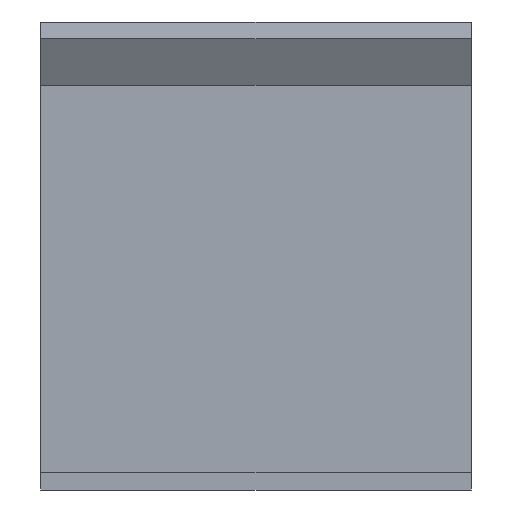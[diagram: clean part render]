
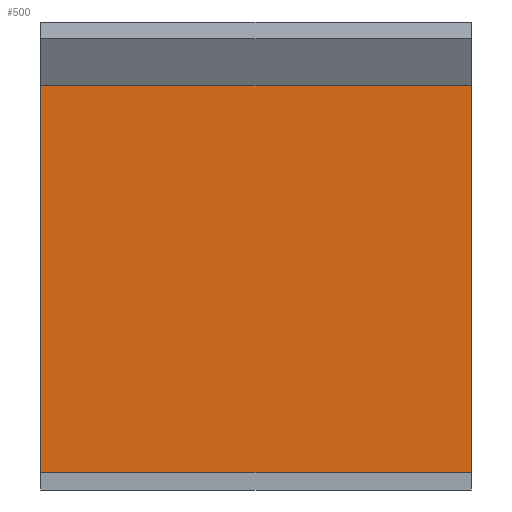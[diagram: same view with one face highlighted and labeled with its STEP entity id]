
A CAD part, front view. The second image highlights one B-rep face of the part: STEP entity #500.
In plain terms, the highlighted planar face has unit normal (0, -1, 0).
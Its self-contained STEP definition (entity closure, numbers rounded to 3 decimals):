
#54 = PLANE('',#55);
#55 = AXIS2_PLACEMENT_3D('',#56,#57,#58);
#56 = CARTESIAN_POINT('',(0.,0.,0.));
#57 = DIRECTION('',(1.,0.,0.));
#58 = DIRECTION('',(0.,0.,1.));
#135 = VERTEX_POINT('',#136);
#136 = CARTESIAN_POINT('',(0.,20.,37.604));
#150 = PLANE('',#151);
#151 = AXIS2_PLACEMENT_3D('',#152,#153,#154);
#152 = CARTESIAN_POINT('',(0.,20.,37.604));
#153 = DIRECTION('',(0.,0.,1.));
#154 = DIRECTION('',(1.,0.,0.));
#162 = EDGE_CURVE('',#163,#135,#165,.T.);
#163 = VERTEX_POINT('',#164);
#164 = CARTESIAN_POINT('',(0.,20.,1.6));
#165 = SURFACE_CURVE('',#166,(#170,#177),.PCURVE_S1.);
#166 = LINE('',#167,#168);
#167 = CARTESIAN_POINT('',(0.,20.,0.));
#168 = VECTOR('',#169,1.);
#169 = DIRECTION('',(0.,0.,1.));
#170 = PCURVE('',#54,#171);
#171 = DEFINITIONAL_REPRESENTATION('',(#172),#176);
#172 = LINE('',#173,#174);
#173 = CARTESIAN_POINT('',(0.,-20.));
#174 = VECTOR('',#175,1.);
#175 = DIRECTION('',(1.,0.));
#176 = ( GEOMETRIC_REPRESENTATION_CONTEXT(2) 
PARAMETRIC_REPRESENTATION_CONTEXT() REPRESENTATION_CONTEXT('2D SPACE',''
  ) );
#177 = PCURVE('',#178,#183);
#178 = PLANE('',#179);
#179 = AXIS2_PLACEMENT_3D('',#180,#181,#182);
#180 = CARTESIAN_POINT('',(0.,20.,0.));
#181 = DIRECTION('',(0.,1.,0.));
#182 = DIRECTION('',(0.,0.,1.));
#183 = DEFINITIONAL_REPRESENTATION('',(#184),#188);
#184 = LINE('',#185,#186);
#185 = CARTESIAN_POINT('',(0.,0.));
#186 = VECTOR('',#187,1.);
#187 = DIRECTION('',(1.,0.));
#188 = ( GEOMETRIC_REPRESENTATION_CONTEXT(2) 
PARAMETRIC_REPRESENTATION_CONTEXT() REPRESENTATION_CONTEXT('2D SPACE',''
  ) );
#204 = PLANE('',#205);
#205 = AXIS2_PLACEMENT_3D('',#206,#207,#208);
#206 = CARTESIAN_POINT('',(0.,0.,1.6));
#207 = DIRECTION('',(0.,0.,1.));
#208 = DIRECTION('',(1.,0.,0.));
#280 = PLANE('',#281);
#281 = AXIS2_PLACEMENT_3D('',#282,#283,#284);
#282 = CARTESIAN_POINT('',(40.,0.,0.));
#283 = DIRECTION('',(1.,0.,0.));
#284 = DIRECTION('',(0.,0.,1.));
#456 = EDGE_CURVE('',#135,#457,#459,.T.);
#457 = VERTEX_POINT('',#458);
#458 = CARTESIAN_POINT('',(40.,20.,37.604));
#459 = SURFACE_CURVE('',#460,(#464,#471),.PCURVE_S1.);
#460 = LINE('',#461,#462);
#461 = CARTESIAN_POINT('',(0.,20.,37.604));
#462 = VECTOR('',#463,1.);
#463 = DIRECTION('',(1.,0.,0.));
#464 = PCURVE('',#150,#465);
#465 = DEFINITIONAL_REPRESENTATION('',(#466),#470);
#466 = LINE('',#467,#468);
#467 = CARTESIAN_POINT('',(0.,0.));
#468 = VECTOR('',#469,1.);
#469 = DIRECTION('',(1.,0.));
#470 = ( GEOMETRIC_REPRESENTATION_CONTEXT(2) 
PARAMETRIC_REPRESENTATION_CONTEXT() REPRESENTATION_CONTEXT('2D SPACE',''
  ) );
#471 = PCURVE('',#178,#472);
#472 = DEFINITIONAL_REPRESENTATION('',(#473),#477);
#473 = LINE('',#474,#475);
#474 = CARTESIAN_POINT('',(37.604,0.));
#475 = VECTOR('',#476,1.);
#476 = DIRECTION('',(0.,1.));
#477 = ( GEOMETRIC_REPRESENTATION_CONTEXT(2) 
PARAMETRIC_REPRESENTATION_CONTEXT() REPRESENTATION_CONTEXT('2D SPACE',''
  ) );
#500 = ADVANCED_FACE('',(#501),#178,.F.);
#501 = FACE_BOUND('',#502,.F.);
#502 = EDGE_LOOP('',(#503,#526,#527,#528));
#503 = ORIENTED_EDGE('',*,*,#504,.F.);
#504 = EDGE_CURVE('',#163,#505,#507,.T.);
#505 = VERTEX_POINT('',#506);
#506 = CARTESIAN_POINT('',(40.,20.,1.6));
#507 = SURFACE_CURVE('',#508,(#512,#519),.PCURVE_S1.);
#508 = LINE('',#509,#510);
#509 = CARTESIAN_POINT('',(0.,20.,1.6));
#510 = VECTOR('',#511,1.);
#511 = DIRECTION('',(1.,0.,0.));
#512 = PCURVE('',#178,#513);
#513 = DEFINITIONAL_REPRESENTATION('',(#514),#518);
#514 = LINE('',#515,#516);
#515 = CARTESIAN_POINT('',(1.6,0.));
#516 = VECTOR('',#517,1.);
#517 = DIRECTION('',(0.,1.));
#518 = ( GEOMETRIC_REPRESENTATION_CONTEXT(2) 
PARAMETRIC_REPRESENTATION_CONTEXT() REPRESENTATION_CONTEXT('2D SPACE',''
  ) );
#519 = PCURVE('',#204,#520);
#520 = DEFINITIONAL_REPRESENTATION('',(#521),#525);
#521 = LINE('',#522,#523);
#522 = CARTESIAN_POINT('',(0.,20.));
#523 = VECTOR('',#524,1.);
#524 = DIRECTION('',(1.,0.));
#525 = ( GEOMETRIC_REPRESENTATION_CONTEXT(2) 
PARAMETRIC_REPRESENTATION_CONTEXT() REPRESENTATION_CONTEXT('2D SPACE',''
  ) );
#526 = ORIENTED_EDGE('',*,*,#162,.T.);
#527 = ORIENTED_EDGE('',*,*,#456,.T.);
#528 = ORIENTED_EDGE('',*,*,#529,.F.);
#529 = EDGE_CURVE('',#505,#457,#530,.T.);
#530 = SURFACE_CURVE('',#531,(#535,#542),.PCURVE_S1.);
#531 = LINE('',#532,#533);
#532 = CARTESIAN_POINT('',(40.,20.,0.));
#533 = VECTOR('',#534,1.);
#534 = DIRECTION('',(0.,0.,1.));
#535 = PCURVE('',#178,#536);
#536 = DEFINITIONAL_REPRESENTATION('',(#537),#541);
#537 = LINE('',#538,#539);
#538 = CARTESIAN_POINT('',(0.,40.));
#539 = VECTOR('',#540,1.);
#540 = DIRECTION('',(1.,0.));
#541 = ( GEOMETRIC_REPRESENTATION_CONTEXT(2) 
PARAMETRIC_REPRESENTATION_CONTEXT() REPRESENTATION_CONTEXT('2D SPACE',''
  ) );
#542 = PCURVE('',#280,#543);
#543 = DEFINITIONAL_REPRESENTATION('',(#544),#548);
#544 = LINE('',#545,#546);
#545 = CARTESIAN_POINT('',(0.,-20.));
#546 = VECTOR('',#547,1.);
#547 = DIRECTION('',(1.,0.));
#548 = ( GEOMETRIC_REPRESENTATION_CONTEXT(2) 
PARAMETRIC_REPRESENTATION_CONTEXT() REPRESENTATION_CONTEXT('2D SPACE',''
  ) );
